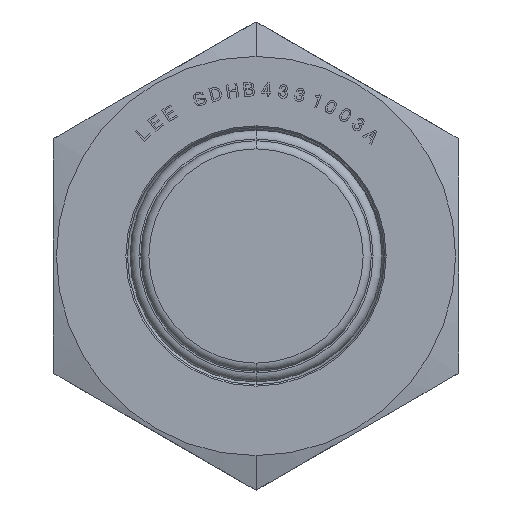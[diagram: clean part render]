
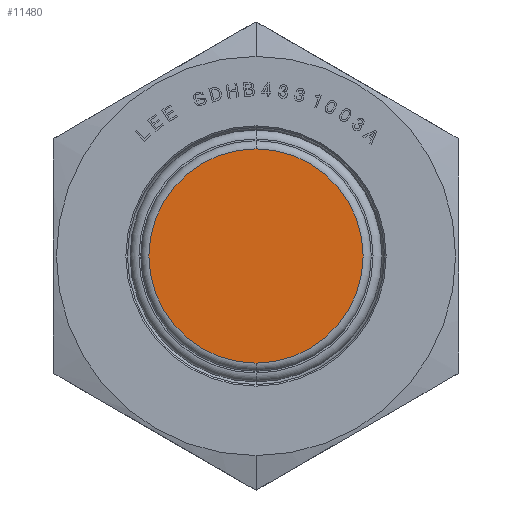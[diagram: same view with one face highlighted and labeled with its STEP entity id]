
A CAD part, left-side view. The second image highlights one B-rep face of the part: STEP entity #11480.
In plain terms, the highlighted planar face has unit normal (-1, 0, 0).
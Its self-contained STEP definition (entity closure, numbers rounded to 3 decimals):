
#11140=CARTESIAN_POINT('',(-34.878,17.914,0.));
#11150=VERTEX_POINT('',#11140);
#11240=CARTESIAN_POINT('',(-34.878,1.15,0.));
#11250=VERTEX_POINT('',#11240);
#11280=CARTESIAN_POINT('',(-34.878,9.532,0.));
#11290=DIRECTION('',(-1.,0.,0.));
#11300=DIRECTION('',(0.,1.,0.));
#11310=AXIS2_PLACEMENT_3D('',#11280,#11290,#11300);
#11320=CIRCLE('',#11310,8.382);
#11330=EDGE_CURVE('',#11250,#11150,#11320,.T.);
#11380=CARTESIAN_POINT('',(-34.878,13.723,0.));
#11390=DIRECTION('',(1.,0.,0.));
#11400=DIRECTION('',(0.,-1.,0.));
#11410=AXIS2_PLACEMENT_3D('',#11380,#11390,#11400);
#11420=PLANE('',#11410);
#11430=EDGE_CURVE('',#11150,#11250,#11320,.T.);
#11440=ORIENTED_EDGE('',*,*,#11430,.T.);
#11450=ORIENTED_EDGE('',*,*,#11330,.T.);
#11460=EDGE_LOOP('',(#11450,#11440));
#11470=FACE_OUTER_BOUND('',#11460,.T.);
#11480=ADVANCED_FACE('',(#11470),#11420,.F.);
